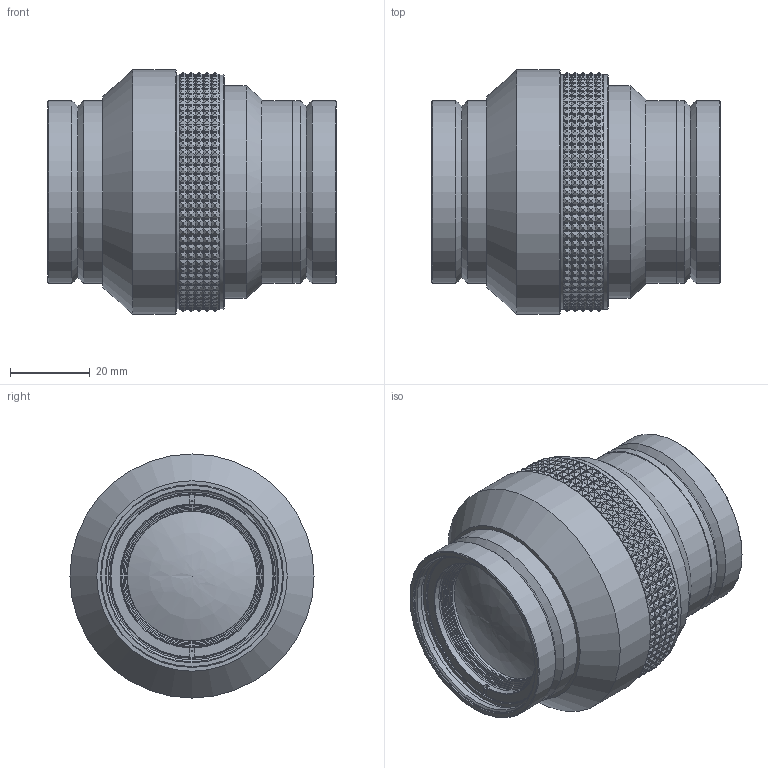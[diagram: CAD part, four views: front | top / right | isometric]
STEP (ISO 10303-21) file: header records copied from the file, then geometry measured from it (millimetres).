
FILE_DESCRIPTION(/* description */ (''),/* implementation_level */ '2;1');
FILE_NAME(/* name */ 'IDummy004370_a.stp',/* time_stamp */ '2011-09-16T11:10:15+02:00',/* author */ (''),/* organization */ (''),/* preprocessor_version */ 'ST-DEVELOPER v11',/* originating_system */ 'SIEMENS UGS NX 6.0',/* authorisation */ '');
FILE_SCHEMA (('AUTOMOTIVE_DESIGN { 1 0 10303 214 1 1 1 1 }'));
Length unit declared in the file: millimetre
Products named in the file (1): cordA0B7lu7n
Bounding box: 72.53 x 61.4 x 61.4 mm (x, y, z)
Volume: 138583.7 mm3; surface area: 19694 mm2
Topology: 1 solids, 1 shells, 2574 faces, 6497 edges, 3935 vertices
Faces by surface type: plane 1262, cone 876, cylinder 433, revolution 2, bspline 1
Full cylindrical faces by diameter (mm): 32.6 x2, 32.648 x1, 36 x2, 41 x2, 42.188 x2, 43.2 x4, 45.8 x1, 46 x4, 53.4 x1, 59 x2, 61.4 x1
Entity records: 78401 total; most frequent: CARTESIAN_POINT 22997, ORIENTED_EDGE 12820, DIRECTION 9664, EDGE_CURVE 6410, AXIS2_PLACEMENT_3D 3991, VERTEX_POINT 3918, B_SPLINE_CURVE_WITH_KNOTS 3313, EDGE_LOOP 2652
